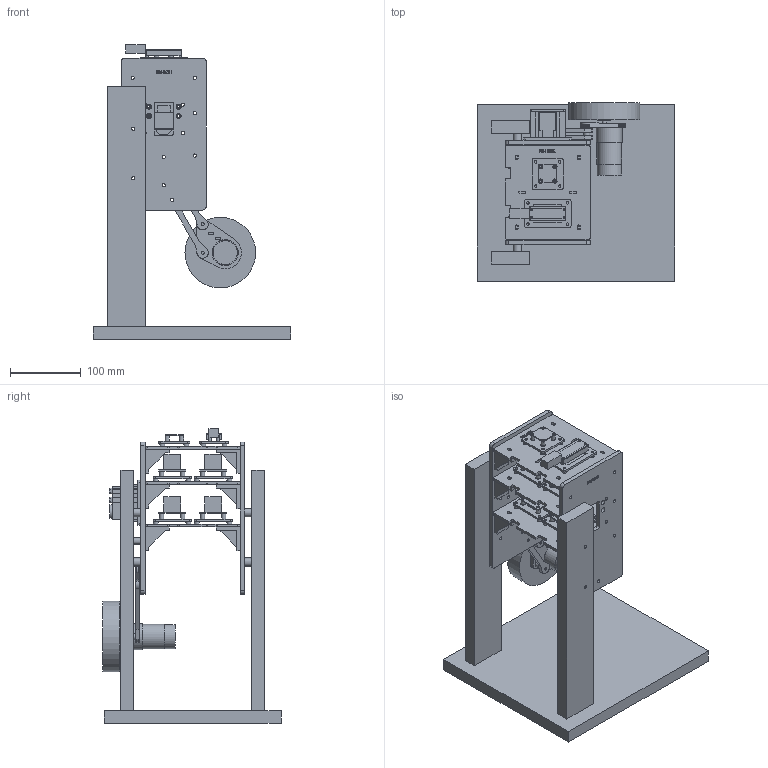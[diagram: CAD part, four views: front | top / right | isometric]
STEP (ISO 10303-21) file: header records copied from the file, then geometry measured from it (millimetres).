
FILE_DESCRIPTION(('Open CASCADE Model'),'2;1');
FILE_NAME('Open CASCADE Shape Model','2026-10-13T11:47:38',('Author'),( 'Open CASCADE'),'Open CASCADE STEP processor 7.8','Open CASCADE 7.8' ,'Unknown');
FILE_SCHEMA(('AUTOMOTIVE_DESIGN { 1 0 10303 214 1 1 1 1 }'));
Length unit declared in the file: millimetre
Products named in the file (111): HUX_R04_THREE_DECK_BODY; body_near; body_far; 03_power_deck; angle_60_-44_0; angle_60_-44_1; angle_60_44_0; angle_60_44_1; 04_interface_deck; angle_120_-44_0; angle_120_-44_1; angle_120_44_0; angle_120_44_1; 05_control_deck; angle_170_-44_0; angle_170_-44_1; angle_170_44_0; angle_170_44_1; lower_link; upper_link; carrier; gearbox; motor; encoder; wheel; body_lower_spacer; body_upper_spacer; carrier_lower_spacer; carrier_upper_spacer; motor_pilot; shaft; hub; servo_cradle; servo_bar_4; servo_bar_17; ST3215_case_envelope; ST3215_output_envelope; 11_pico_plate; 11_pico_plate_foot_0; 11_pico_plate_foot_1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
Assembly tree (110 placements, depth 2):
  HUX_R04_THREE_DECK_BODY
    body_near
    body_far
    03_power_deck
    angle_60_-44_0
    angle_60_-44_1
    angle_60_44_0
    angle_60_44_1
    04_interface_deck
    angle_120_-44_0
    angle_120_-44_1
    angle_120_44_0
    angle_120_44_1
    05_control_deck
    angle_170_-44_0
    angle_170_-44_1
    angle_170_44_0
    angle_170_44_1
    lower_link
    upper_link
    carrier
    gearbox
    motor
    encoder
    wheel
    body_lower_spacer
    body_upper_spacer
    carrier_lower_spacer
    carrier_upper_spacer
    motor_pilot
    shaft
    hub
    servo_cradle
    servo_bar_4
    servo_bar_17
    ST3215_case_envelope
    ST3215_output_envelope
    11_pico_plate
    11_pico_plate_foot_0
    11_pico_plate_foot_1
    11_pico_plate_foot_2
    11_pico_plate_foot_3
    11_pico_plate_spacer_0
    11_pico_plate_spacer_1
    11_pico_plate_spacer_2
    11_pico_plate_spacer_3
    11_pico_plate_PCB
    12_imu_plate
    12_imu_plate_foot_0
    12_imu_plate_foot_1
    12_imu_plate_foot_2
    12_imu_plate_foot_3
    12_imu_plate_spacer_0
    12_imu_plate_spacer_1
    12_imu_plate_spacer_2
    12_imu_plate_spacer_3
    12_imu_plate_PCB
    pico_header_-8.89
    pico_header_8.89
    pico_USB_access
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Bounding box: 280 x 252 x 417 mm (x, y, z)
Volume: 2993665.1 mm3; surface area: 704343.3 mm2
Topology: 110 solids, 110 shells, 2048 faces, 5303 edges, 3534 vertices
Faces by surface type: plane 1162, cylinder 471, extrusion 415
Full cylindrical faces by diameter (mm): 2.1 x4, 2.2 x4, 2.4 x4, 3.048 x4, 3.2 x20, 3.4 x6, 3.5 x120, 4.5 x17, 4.6 x60, 6 x22, 7 x32, 9 x4, 12 x5, 12.4 x1, 18 x1, 19.2 x1, 22 x1, 34 x1, 34.8 x1, 36.8 x1, 100 x1
Entity records: 144630 total; most frequent: CARTESIAN_POINT 37056, DIRECTION 18188, VECTOR 12353, LINE 11938, ORIENTED_EDGE 10606, PCURVE 10606, DEFINITIONAL_REPRESENTATION 10606, EDGE_CURVE 5303
